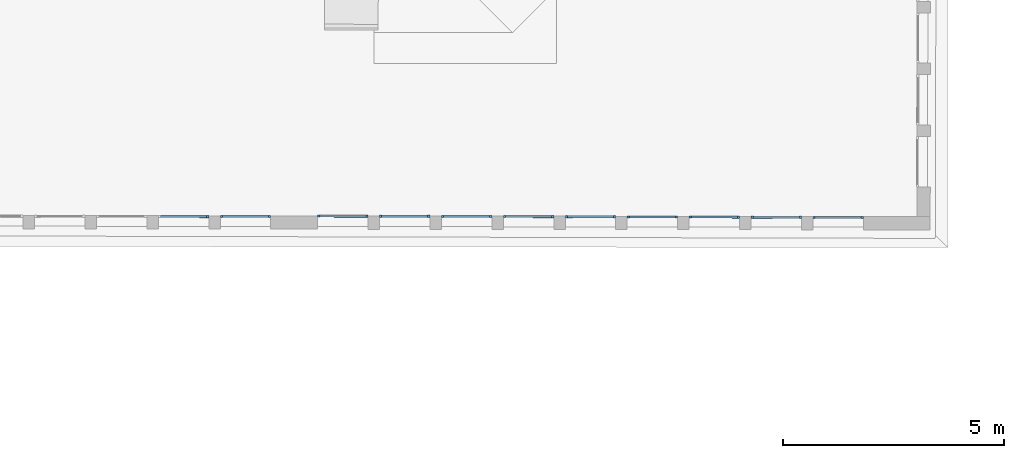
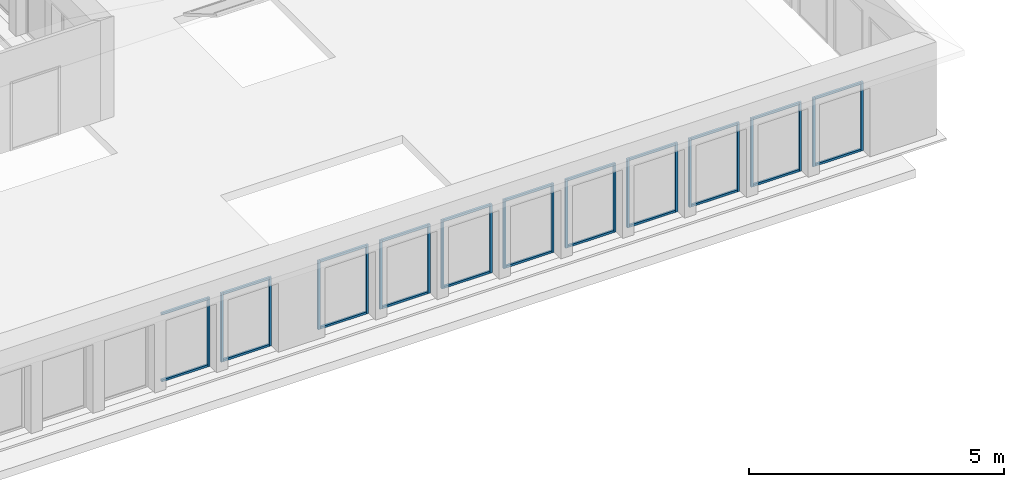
# One storey, part 9 of 26: 43 members, 11 elements without a shape of their own.
"""IFC2X3 building model written with IfcOpenShell, lengths in metres."""

from ifc_helpers import new_model, entity, si_unit, converted_unit, derived_unit, direction, frame, origin, origin_2d_with_axis, place, context, subcontext, project, spatial, rectangle, extrude, source, transform, mapped, material, type_object, type_shapes, element, aggregate, save


model = new_model("IFC2X3")

# Units and contexts
model_context = context("Model", 3, precision=1e-05, world=origin(), true_north=direction((6.123233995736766e-17, 1.0)))
body_context = subcontext(model_context, "Body", "Model", "MODEL_VIEW")
ifc_project = project(units=[si_unit("LENGTHUNIT", "METRE"), si_unit("AREAUNIT", "SQUARE_METRE"), converted_unit("PLANEANGLEUNIT", "DEGREE", entity("IfcPlaneAngleMeasure", 0.017453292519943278), si_unit("PLANEANGLEUNIT", "RADIAN"), dimensions=[0, 0, 0, 0, 0, 0, 0]), derived_unit("THERMALTRANSMITTANCEUNIT", [(si_unit("MASSUNIT", "GRAM", prefix="KILO"), 1), (si_unit("THERMODYNAMICTEMPERATUREUNIT", "KELVIN"), -1), (si_unit("TIMEUNIT", "SECOND"), -3)])], contexts=[model_context])

# Site, building, storey
site_placement = place(None, frame((1253.6752467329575, 2072.143113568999, 91.49999999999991), z_axis=(0.0, 0.0, 1.0), x_axis=(0.7237211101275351, 0.6900925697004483, 0.0)))
site = spatial("IfcSite", under=ifc_project, at=site_placement, Name="Surface", CompositionType="ELEMENT")
building_placement = place(site_placement, origin())
building = spatial("IfcBuilding", under=site, at=building_placement, CompositionType="ELEMENT")
storey_placement = place(building_placement, frame((0.0, 0.0, 7.0)))
storey = spatial("IfcBuildingStorey", under=building, at=storey_placement, Name="2-R+2", CompositionType="ELEMENT", Elevation=6.999999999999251)

# Curtain wall, member
curtain_wall_type = type_object("IfcCurtainWallType", Name="Mur-rideau:Menuiserie Ext 1F+1OB VERTIC", PredefinedType="NOTDEFINED")
curtain_wall_1_placement = place(storey_placement, frame((0.0, 0.0, -7.0)))
curtain_wall_1 = element("IfcCurtainWall", 1, at=curtain_wall_1_placement, inside=storey, type_object=curtain_wall_type, Name="Mur-rideau:Menuiserie Ext 1F+1OB VERTIC", ObjectType="Mur-rideau:Menuiserie Ext 1F+1OB VERTIC")
ifc_material = material(Name="OMD_Aluminium Men Ext")
member_type_1 = type_object("IfcMemberType", Name="Meneau rectangulaire:50x50", PredefinedType="MULLION", material=ifc_material)
shared_shape_1 = source(origin(), body_context, "Body", "SweptSolid", [
    extrude(rectangle(XDim=0.05, YDim=0.049999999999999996, at=origin_2d_with_axis()), frame((-0.025, 0.0, -1.039999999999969), z_axis=(0.0, 0.0, 1.0), x_axis=(-1.0, 0.0, 0.0)), (0.0, 0.0, 1.0), 1.0399999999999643),
])
type_shapes(member_type_1, [shared_shape_1])
member_1_placement = place(curtain_wall_1_placement, frame((177.6150356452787, -27.660226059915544, 9.55), z_axis=(-0.7228702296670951, 0.6909838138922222, 0.0), x_axis=(0.0, 0.0, 1.0)))
member_1 = element("IfcMember", 2, at=member_1_placement, type_object=member_type_1, material=ifc_material, Name="Meneau rectangulaire:50x50", ObjectType="Meneau rectangulaire:50x50", context=body_context, shape_type="MappedRepresentation", body=[
    mapped(shared_shape_1, transform((0.0, 0.0, 0.0), scale=1.0)),
])

curtain_wall_2_placement = place(storey_placement, frame((0.0, 0.0, -7.0)))
curtain_wall_2 = element("IfcCurtainWall", 3, at=curtain_wall_2_placement, inside=storey, type_object=curtain_wall_type, Name="Mur-rideau:Menuiserie Ext 1F+1OB VERTIC", ObjectType="Mur-rideau:Menuiserie Ext 1F+1OB VERTIC")
member_2_placement = place(curtain_wall_2_placement, frame((176.60434606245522, -26.691460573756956, 9.55), z_axis=(-0.7228702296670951, 0.6909838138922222, 0.0), x_axis=(0.0, 0.0, 1.0)))
member_2 = element("IfcMember", 4, at=member_2_placement, type_object=member_type_1, material=ifc_material, Name="Meneau rectangulaire:50x50", ObjectType="Meneau rectangulaire:50x50", context=body_context, shape_type="MappedRepresentation", body=[
    mapped(shared_shape_1, transform((0.0, 0.0, 0.0), scale=1.0)),
])

curtain_wall_3_placement = place(storey_placement, frame((0.0, 0.0, -7.0)))
curtain_wall_3 = element("IfcCurtainWall", 5, at=curtain_wall_3_placement, inside=storey, type_object=curtain_wall_type, Name="Mur-rideau:Menuiserie Ext 1F+1OB VERTIC", ObjectType="Mur-rideau:Menuiserie Ext 1F+1OB VERTIC")
member_3_placement = place(curtain_wall_3_placement, frame((175.59365647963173, -25.722695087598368, 9.55), z_axis=(-0.7228702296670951, 0.6909838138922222, 0.0), x_axis=(0.0, 0.0, 1.0)))
member_3 = element("IfcMember", 6, at=member_3_placement, type_object=member_type_1, material=ifc_material, Name="Meneau rectangulaire:50x50", ObjectType="Meneau rectangulaire:50x50", context=body_context, shape_type="MappedRepresentation", body=[
    mapped(shared_shape_1, transform((0.0, 0.0, 0.0), scale=1.0)),
])

curtain_wall_4_placement = place(storey_placement, frame((0.0, 0.0, -7.0)))
curtain_wall_4 = element("IfcCurtainWall", 7, at=curtain_wall_4_placement, inside=storey, type_object=curtain_wall_type, Name="Mur-rideau:Menuiserie Ext 1F+1OB VERTIC", ObjectType="Mur-rideau:Menuiserie Ext 1F+1OB VERTIC")
member_4_placement = place(curtain_wall_4_placement, frame((174.58296689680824, -24.75392960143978, 9.55), z_axis=(-0.7228702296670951, 0.6909838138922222, 0.0), x_axis=(0.0, 0.0, 1.0)))
member_4 = element("IfcMember", 8, at=member_4_placement, type_object=member_type_1, material=ifc_material, Name="Meneau rectangulaire:50x50", ObjectType="Meneau rectangulaire:50x50", context=body_context, shape_type="MappedRepresentation", body=[
    mapped(shared_shape_1, transform((0.0, 0.0, 0.0), scale=1.0)),
])

curtain_wall_5_placement = place(storey_placement, frame((0.0, 0.0, -7.0)))
curtain_wall_5 = element("IfcCurtainWall", 9, at=curtain_wall_5_placement, inside=storey, type_object=curtain_wall_type, Name="Mur-rideau:Menuiserie Ext 1F+1OB VERTIC", ObjectType="Mur-rideau:Menuiserie Ext 1F+1OB VERTIC")
member_5_placement = place(curtain_wall_5_placement, frame((173.57227731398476, -23.785164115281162, 9.55), z_axis=(-0.7228702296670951, 0.6909838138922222, 0.0), x_axis=(0.0, 0.0, 1.0)))
member_5 = element("IfcMember", 10, at=member_5_placement, type_object=member_type_1, material=ifc_material, Name="Meneau rectangulaire:50x50", ObjectType="Meneau rectangulaire:50x50", context=body_context, shape_type="MappedRepresentation", body=[
    mapped(shared_shape_1, transform((0.0, 0.0, 0.0), scale=1.0)),
])

curtain_wall_6_placement = place(storey_placement, frame((0.0, 0.0, -7.0)))
curtain_wall_6 = element("IfcCurtainWall", 11, at=curtain_wall_6_placement, inside=storey, type_object=curtain_wall_type, Name="Mur-rideau:Menuiserie Ext 1F+1OB VERTIC", ObjectType="Mur-rideau:Menuiserie Ext 1F+1OB VERTIC")
member_6_placement = place(curtain_wall_6_placement, frame((172.56158773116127, -22.816398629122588, 9.55), z_axis=(-0.7228702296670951, 0.6909838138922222, 0.0), x_axis=(0.0, 0.0, 1.0)))
member_6 = element("IfcMember", 12, at=member_6_placement, type_object=member_type_1, material=ifc_material, Name="Meneau rectangulaire:50x50", ObjectType="Meneau rectangulaire:50x50", context=body_context, shape_type="MappedRepresentation", body=[
    mapped(shared_shape_1, transform((0.0, 0.0, 0.0), scale=1.0)),
])

curtain_wall_7_placement = place(storey_placement, frame((0.0, 0.0, -7.0)))
curtain_wall_7 = element("IfcCurtainWall", 13, at=curtain_wall_7_placement, inside=storey, type_object=curtain_wall_type, Name="Mur-rideau:Menuiserie Ext 1F+1OB VERTIC", ObjectType="Mur-rideau:Menuiserie Ext 1F+1OB VERTIC")
member_7_placement = place(curtain_wall_7_placement, frame((171.55089814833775, -21.84763314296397, 9.55), z_axis=(-0.7228702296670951, 0.6909838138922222, 0.0), x_axis=(0.0, 0.0, 1.0)))
member_7 = element("IfcMember", 14, at=member_7_placement, type_object=member_type_1, material=ifc_material, Name="Meneau rectangulaire:50x50", ObjectType="Meneau rectangulaire:50x50", context=body_context, shape_type="MappedRepresentation", body=[
    mapped(shared_shape_1, transform((0.0, 0.0, 0.0), scale=1.0)),
])

curtain_wall_8_placement = place(storey_placement, frame((0.0, 0.0, -7.0)))
curtain_wall_8 = element("IfcCurtainWall", 15, at=curtain_wall_8_placement, inside=storey, type_object=curtain_wall_type, Name="Mur-rideau:Menuiserie Ext 1F+1OB VERTIC", ObjectType="Mur-rideau:Menuiserie Ext 1F+1OB VERTIC")
member_8_placement = place(curtain_wall_8_placement, frame((170.54005497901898, -20.87872044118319, 9.55), z_axis=(-0.7228702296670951, 0.6909838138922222, 0.0), x_axis=(0.0, 0.0, 1.0)))
member_8 = element("IfcMember", 16, at=member_8_placement, type_object=member_type_1, material=ifc_material, Name="Meneau rectangulaire:50x50", ObjectType="Meneau rectangulaire:50x50", context=body_context, shape_type="MappedRepresentation", body=[
    mapped(shared_shape_1, transform((0.0, 0.0, 0.0), scale=1.0)),
])

curtain_wall_9_placement = place(storey_placement, frame((0.0, 0.0, -7.0)))
curtain_wall_9 = element("IfcCurtainWall", 17, at=curtain_wall_9_placement, inside=storey, type_object=curtain_wall_type, Name="Mur-rideau:Menuiserie Ext 1F+1OB VERTIC", ObjectType="Mur-rideau:Menuiserie Ext 1F+1OB VERTIC")
member_9_placement = place(curtain_wall_9_placement, frame((169.5293653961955, -19.909954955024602, 9.55), z_axis=(-0.7228702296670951, 0.6909838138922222, 0.0), x_axis=(0.0, 0.0, 1.0)))
member_9 = element("IfcMember", 18, at=member_9_placement, type_object=member_type_1, material=ifc_material, Name="Meneau rectangulaire:50x50", ObjectType="Meneau rectangulaire:50x50", context=body_context, shape_type="MappedRepresentation", body=[
    mapped(shared_shape_1, transform((0.0, 0.0, 0.0), scale=1.0)),
])

curtain_wall_10_placement = place(storey_placement, frame((0.0, 0.0, -7.0)))
curtain_wall_10 = element("IfcCurtainWall", 19, at=curtain_wall_10_placement, inside=storey, type_object=curtain_wall_type, Name="Mur-rideau:Menuiserie Ext 1F+1OB VERTIC", ObjectType="Mur-rideau:Menuiserie Ext 1F+1OB VERTIC")
member_10_placement = place(curtain_wall_10_placement, frame((167.9307592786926, -18.39843800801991, 9.55), z_axis=(-0.7228702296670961, 0.6909838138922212, 0.0), x_axis=(0.0, 0.0, 1.0)))
member_10 = element("IfcMember", 20, at=member_10_placement, type_object=member_type_1, material=ifc_material, Name="Meneau rectangulaire:50x50", ObjectType="Meneau rectangulaire:50x50", context=body_context, shape_type="MappedRepresentation", body=[
    mapped(shared_shape_1, transform((0.0, 0.0, 0.0), scale=1.0)),
])

curtain_wall_11_placement = place(storey_placement, frame((0.0, 0.0, -7.0)))
curtain_wall_11 = element("IfcCurtainWall", 21, at=curtain_wall_11_placement, inside=storey, type_object=curtain_wall_type, Name="Mur-rideau:Menuiserie Ext 1F+1OB VERTIC", ObjectType="Mur-rideau:Menuiserie Ext 1F+1OB VERTIC")
member_11_placement = place(curtain_wall_11_placement, frame((166.91660981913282, -17.433282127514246, 9.55), z_axis=(-0.7228702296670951, 0.6909838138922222, 0.0), x_axis=(0.0, 0.0, 1.0)))
member_11 = element("IfcMember", 22, at=member_11_placement, type_object=member_type_1, material=ifc_material, Name="Meneau rectangulaire:50x50", ObjectType="Meneau rectangulaire:50x50", context=body_context, shape_type="MappedRepresentation", body=[
    mapped(shared_shape_1, transform((0.0, 0.0, 0.0), scale=1.0)),
])

# Member
member_type_2 = type_object("IfcMemberType", Name="Meneau rectangulaire:50x50", PredefinedType="MULLION", material=ifc_material)
shared_shape_2 = source(origin(), body_context, "Body", "SweptSolid", [
    extrude(rectangle(XDim=0.05, YDim=0.05, at=origin_2d_with_axis()), frame((-0.025, 0.0, -1.0399999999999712), z_axis=(0.0, 0.0, 1.0), x_axis=(-1.0, 0.0, 0.0)), (0.0, 0.0, 1.0), 1.0399999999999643),
])
type_shapes(member_type_2, [shared_shape_2])
member_12_placement = place(curtain_wall_1_placement, frame((178.36682068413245, -28.378849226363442, 7.900000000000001), z_axis=(0.7228702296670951, -0.6909838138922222, 0.0), x_axis=(0.0, 0.0, -1.0)))
member_12 = element("IfcMember", 23, at=member_12_placement, type_object=member_type_2, material=ifc_material, Name="Meneau rectangulaire:50x50", ObjectType="Meneau rectangulaire:50x50", context=body_context, shape_type="MappedRepresentation", body=[
    mapped(shared_shape_2, transform((0.0, 0.0, 0.0), scale=1.0)),
])

member_13_placement = place(curtain_wall_2_placement, frame((177.35613110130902, -27.410083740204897, 7.900000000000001), z_axis=(0.7228702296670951, -0.6909838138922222, 0.0), x_axis=(0.0, 0.0, -1.0)))
member_13 = element("IfcMember", 24, at=member_13_placement, type_object=member_type_2, material=ifc_material, Name="Meneau rectangulaire:50x50", ObjectType="Meneau rectangulaire:50x50", context=body_context, shape_type="MappedRepresentation", body=[
    mapped(shared_shape_2, transform((0.0, 0.0, 0.0), scale=1.0)),
])

member_14_placement = place(curtain_wall_3_placement, frame((176.34544151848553, -26.441318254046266, 7.900000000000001), z_axis=(0.7228702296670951, -0.6909838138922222, 0.0), x_axis=(0.0, 0.0, -1.0)))
member_14 = element("IfcMember", 25, at=member_14_placement, type_object=member_type_2, material=ifc_material, Name="Meneau rectangulaire:50x50", ObjectType="Meneau rectangulaire:50x50", context=body_context, shape_type="MappedRepresentation", body=[
    mapped(shared_shape_2, transform((0.0, 0.0, 0.0), scale=1.0)),
])

member_15_placement = place(curtain_wall_4_placement, frame((175.33475193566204, -25.47255276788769, 7.900000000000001), z_axis=(0.7228702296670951, -0.6909838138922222, 0.0), x_axis=(0.0, 0.0, -1.0)))
member_15 = element("IfcMember", 26, at=member_15_placement, type_object=member_type_2, material=ifc_material, Name="Meneau rectangulaire:50x50", ObjectType="Meneau rectangulaire:50x50", context=body_context, shape_type="MappedRepresentation", body=[
    mapped(shared_shape_2, transform((0.0, 0.0, 0.0), scale=1.0)),
])

member_16_placement = place(curtain_wall_5_placement, frame((174.32406235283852, -24.503787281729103, 7.900000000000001), z_axis=(0.7228702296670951, -0.6909838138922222, 0.0), x_axis=(0.0, 0.0, -1.0)))
member_16 = element("IfcMember", 27, at=member_16_placement, type_object=member_type_2, material=ifc_material, Name="Meneau rectangulaire:50x50", ObjectType="Meneau rectangulaire:50x50", context=body_context, shape_type="MappedRepresentation", body=[
    mapped(shared_shape_2, transform((0.0, 0.0, 0.0), scale=1.0)),
])

member_17_placement = place(curtain_wall_6_placement, frame((173.31337277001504, -23.5350217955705, 7.900000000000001), z_axis=(0.7228702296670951, -0.6909838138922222, 0.0), x_axis=(0.0, 0.0, -1.0)))
member_17 = element("IfcMember", 28, at=member_17_placement, type_object=member_type_2, material=ifc_material, Name="Meneau rectangulaire:50x50", ObjectType="Meneau rectangulaire:50x50", context=body_context, shape_type="MappedRepresentation", body=[
    mapped(shared_shape_2, transform((0.0, 0.0, 0.0), scale=1.0)),
])

member_18_placement = place(curtain_wall_7_placement, frame((172.30268318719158, -22.566256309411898, 7.900000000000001), z_axis=(0.7228702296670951, -0.6909838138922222, 0.0), x_axis=(0.0, 0.0, -1.0)))
member_18 = element("IfcMember", 29, at=member_18_placement, type_object=member_type_2, material=ifc_material, Name="Meneau rectangulaire:50x50", ObjectType="Meneau rectangulaire:50x50", context=body_context, shape_type="MappedRepresentation", body=[
    mapped(shared_shape_2, transform((0.0, 0.0, 0.0), scale=1.0)),
])

member_19_placement = place(curtain_wall_8_placement, frame((171.29184001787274, -21.59734360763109, 7.900000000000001), z_axis=(0.7228702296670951, -0.6909838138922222, 0.0), x_axis=(0.0, 0.0, -1.0)))
member_19 = element("IfcMember", 30, at=member_19_placement, type_object=member_type_2, material=ifc_material, Name="Meneau rectangulaire:50x50", ObjectType="Meneau rectangulaire:50x50", context=body_context, shape_type="MappedRepresentation", body=[
    mapped(shared_shape_2, transform((0.0, 0.0, 0.0), scale=1.0)),
])

member_20_placement = place(curtain_wall_9_placement, frame((170.28115043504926, -20.628578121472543, 7.900000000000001), z_axis=(0.7228702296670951, -0.6909838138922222, 0.0), x_axis=(0.0, 0.0, -1.0)))
member_20 = element("IfcMember", 31, at=member_20_placement, type_object=member_type_2, material=ifc_material, Name="Meneau rectangulaire:50x50", ObjectType="Meneau rectangulaire:50x50", context=body_context, shape_type="MappedRepresentation", body=[
    mapped(shared_shape_2, transform((0.0, 0.0, 0.0), scale=1.0)),
])

member_21_placement = place(curtain_wall_10_placement, frame((168.68254431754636, -19.117061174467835, 7.900000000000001), z_axis=(0.7228702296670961, -0.6909838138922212, 0.0), x_axis=(0.0, 0.0, -1.0)))
member_21 = element("IfcMember", 32, at=member_21_placement, type_object=member_type_2, material=ifc_material, Name="Meneau rectangulaire:50x50", ObjectType="Meneau rectangulaire:50x50", context=body_context, shape_type="MappedRepresentation", body=[
    mapped(shared_shape_2, transform((0.0, 0.0, 0.0), scale=1.0)),
])

member_22_placement = place(curtain_wall_11_placement, frame((167.66839485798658, -18.151905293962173, 7.900000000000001), z_axis=(0.7228702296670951, -0.6909838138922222, 0.0), x_axis=(0.0, 0.0, -1.0)))
member_22 = element("IfcMember", 33, at=member_22_placement, type_object=member_type_2, material=ifc_material, Name="Meneau rectangulaire:50x50", ObjectType="Meneau rectangulaire:50x50", context=body_context, shape_type="MappedRepresentation", body=[
    mapped(shared_shape_2, transform((0.0, 0.0, 0.0), scale=1.0)),
])

member_type_3 = type_object("IfcMemberType", Name="Meneau rectangulaire:50x50", PredefinedType="MULLION", material=ifc_material)
shared_shape_3 = source(origin(), body_context, "Body", "SweptSolid", [
    extrude(rectangle(XDim=0.05, YDim=0.05, at=origin_2d_with_axis()), frame((-0.025, 0.0, -1.6499999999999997), z_axis=(0.0, 0.0, 1.0), x_axis=(-1.0, 0.0, 0.0)), (0.0, 0.0, 1.0), 1.6499999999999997),
])
type_shapes(member_type_3, [shared_shape_3])
member_23_placement = place(curtain_wall_1_placement, frame((177.57889213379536, -27.625676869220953, 7.900000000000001), z_axis=(0.0, 0.0, -1.0), x_axis=(-0.7228702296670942, 0.6909838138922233, 0.0)))
member_23 = element("IfcMember", 34, at=member_23_placement, type_object=member_type_3, material=ifc_material, Name="Meneau rectangulaire:50x50", ObjectType="Meneau rectangulaire:50x50", context=body_context, shape_type="MappedRepresentation", body=[
    mapped(shared_shape_3, transform((0.0, 0.0, 0.0), scale=1.0)),
])

member_24_placement = place(curtain_wall_2_placement, frame((176.5682025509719, -26.656911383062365, 7.900000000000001), z_axis=(0.0, 0.0, -1.0), x_axis=(-0.7228702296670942, 0.6909838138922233, 0.0)))
member_24 = element("IfcMember", 35, at=member_24_placement, type_object=member_type_3, material=ifc_material, Name="Meneau rectangulaire:50x50", ObjectType="Meneau rectangulaire:50x50", context=body_context, shape_type="MappedRepresentation", body=[
    mapped(shared_shape_3, transform((0.0, 0.0, 0.0), scale=1.0)),
])

member_25_placement = place(curtain_wall_3_placement, frame((175.55751296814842, -25.688145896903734, 7.900000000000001), z_axis=(0.0, 0.0, -1.0), x_axis=(-0.7228702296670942, 0.6909838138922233, 0.0)))
member_25 = element("IfcMember", 36, at=member_25_placement, type_object=member_type_3, material=ifc_material, Name="Meneau rectangulaire:50x50", ObjectType="Meneau rectangulaire:50x50", context=body_context, shape_type="MappedRepresentation", body=[
    mapped(shared_shape_3, transform((0.0, 0.0, 0.0), scale=1.0)),
])

member_26_placement = place(curtain_wall_4_placement, frame((174.5468233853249, -24.71938041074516, 7.900000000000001), z_axis=(0.0, 0.0, -1.0), x_axis=(-0.7228702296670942, 0.6909838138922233, 0.0)))
member_26 = element("IfcMember", 37, at=member_26_placement, type_object=member_type_3, material=ifc_material, Name="Meneau rectangulaire:50x50", ObjectType="Meneau rectangulaire:50x50", context=body_context, shape_type="MappedRepresentation", body=[
    mapped(shared_shape_3, transform((0.0, 0.0, 0.0), scale=1.0)),
])

member_27_placement = place(curtain_wall_5_placement, frame((173.53613380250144, -23.75061492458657, 7.900000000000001), z_axis=(0.0, 0.0, -1.0), x_axis=(-0.7228702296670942, 0.6909838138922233, 0.0)))
member_27 = element("IfcMember", 38, at=member_27_placement, type_object=member_type_3, material=ifc_material, Name="Meneau rectangulaire:50x50", ObjectType="Meneau rectangulaire:50x50", context=body_context, shape_type="MappedRepresentation", body=[
    mapped(shared_shape_3, transform((0.0, 0.0, 0.0), scale=1.0)),
])

member_28_placement = place(curtain_wall_6_placement, frame((172.52544421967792, -22.78184943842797, 7.900000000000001), z_axis=(0.0, 0.0, -1.0), x_axis=(-0.7228702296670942, 0.6909838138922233, 0.0)))
member_28 = element("IfcMember", 39, at=member_28_placement, type_object=member_type_3, material=ifc_material, Name="Meneau rectangulaire:50x50", ObjectType="Meneau rectangulaire:50x50", context=body_context, shape_type="MappedRepresentation", body=[
    mapped(shared_shape_3, transform((0.0, 0.0, 0.0), scale=1.0)),
])

member_29_placement = place(curtain_wall_7_placement, frame((171.51475463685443, -21.81308395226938, 7.900000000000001), z_axis=(0.0, 0.0, -1.0), x_axis=(-0.7228702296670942, 0.6909838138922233, 0.0)))
member_29 = element("IfcMember", 40, at=member_29_placement, type_object=member_type_3, material=ifc_material, Name="Meneau rectangulaire:50x50", ObjectType="Meneau rectangulaire:50x50", context=body_context, shape_type="MappedRepresentation", body=[
    mapped(shared_shape_3, transform((0.0, 0.0, 0.0), scale=1.0)),
])

member_30_placement = place(curtain_wall_8_placement, frame((170.50391146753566, -20.844171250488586, 7.900000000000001), z_axis=(0.0, 0.0, -1.0), x_axis=(-0.7228702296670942, 0.6909838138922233, 0.0)))
member_30 = element("IfcMember", 41, at=member_30_placement, type_object=member_type_3, material=ifc_material, Name="Meneau rectangulaire:50x50", ObjectType="Meneau rectangulaire:50x50", context=body_context, shape_type="MappedRepresentation", body=[
    mapped(shared_shape_3, transform((0.0, 0.0, 0.0), scale=1.0)),
])

member_31_placement = place(curtain_wall_9_placement, frame((169.49322188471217, -19.87540576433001, 7.900000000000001), z_axis=(0.0, 0.0, -1.0), x_axis=(-0.7228702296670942, 0.6909838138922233, 0.0)))
member_31 = element("IfcMember", 42, at=member_31_placement, type_object=member_type_3, material=ifc_material, Name="Meneau rectangulaire:50x50", ObjectType="Meneau rectangulaire:50x50", context=body_context, shape_type="MappedRepresentation", body=[
    mapped(shared_shape_3, transform((0.0, 0.0, 0.0), scale=1.0)),
])

member_32_placement = place(curtain_wall_10_placement, frame((167.89461576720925, -18.363888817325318, 7.900000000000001), z_axis=(0.0, 0.0, -1.0), x_axis=(-0.7228702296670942, 0.6909838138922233, 0.0)))
member_32 = element("IfcMember", 43, at=member_32_placement, type_object=member_type_3, material=ifc_material, Name="Meneau rectangulaire:50x50", ObjectType="Meneau rectangulaire:50x50", context=body_context, shape_type="MappedRepresentation", body=[
    mapped(shared_shape_3, transform((0.0, 0.0, 0.0), scale=1.0)),
])

member_type_4 = type_object("IfcMemberType", Name="Meneau rectangulaire:50x50", PredefinedType="MULLION", material=ifc_material)
shared_shape_4 = source(origin(), body_context, "Body", "SweptSolid", [
    extrude(rectangle(XDim=0.05, YDim=0.05000000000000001, at=origin_2d_with_axis()), frame((-0.025, 0.0, -1.6499999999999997), z_axis=(0.0, 0.0, 1.0), x_axis=(-1.0, 0.0, 0.0)), (0.0, 0.0, 1.0), 1.6499999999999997),
])
type_shapes(member_type_4, [shared_shape_4])
member_33_placement = place(curtain_wall_1_placement, frame((178.40296419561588, -28.413398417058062, 9.55), z_axis=(0.0, 0.0, 1.0), x_axis=(0.7228702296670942, -0.6909838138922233, 0.0)))
member_33 = element("IfcMember", 44, at=member_33_placement, type_object=member_type_4, material=ifc_material, Name="Meneau rectangulaire:50x50", ObjectType="Meneau rectangulaire:50x50", context=body_context, shape_type="MappedRepresentation", body=[
    mapped(shared_shape_4, transform((0.0, 0.0, 0.0), scale=1.0)),
])

aggregate(curtain_wall_1, [member_1, member_12, member_23, member_33])

member_34_placement = place(curtain_wall_2_placement, frame((177.3922746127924, -27.444632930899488, 9.55), z_axis=(0.0, 0.0, 1.0), x_axis=(0.7228702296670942, -0.6909838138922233, 0.0)))
member_34 = element("IfcMember", 45, at=member_34_placement, type_object=member_type_4, material=ifc_material, Name="Meneau rectangulaire:50x50", ObjectType="Meneau rectangulaire:50x50", context=body_context, shape_type="MappedRepresentation", body=[
    mapped(shared_shape_4, transform((0.0, 0.0, 0.0), scale=1.0)),
])

aggregate(curtain_wall_2, [member_2, member_13, member_24, member_34])

member_35_placement = place(curtain_wall_3_placement, frame((176.3815850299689, -26.4758674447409, 9.55), z_axis=(0.0, 0.0, 1.0), x_axis=(0.7228702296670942, -0.6909838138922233, 0.0)))
member_35 = element("IfcMember", 46, at=member_35_placement, type_object=member_type_4, material=ifc_material, Name="Meneau rectangulaire:50x50", ObjectType="Meneau rectangulaire:50x50", context=body_context, shape_type="MappedRepresentation", body=[
    mapped(shared_shape_4, transform((0.0, 0.0, 0.0), scale=1.0)),
])

aggregate(curtain_wall_3, [member_3, member_14, member_25, member_35])

member_36_placement = place(curtain_wall_4_placement, frame((175.37089544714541, -25.50710195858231, 9.55), z_axis=(0.0, 0.0, 1.0), x_axis=(0.7228702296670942, -0.6909838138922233, 0.0)))
member_36 = element("IfcMember", 47, at=member_36_placement, type_object=member_type_4, material=ifc_material, Name="Meneau rectangulaire:50x50", ObjectType="Meneau rectangulaire:50x50", context=body_context, shape_type="MappedRepresentation", body=[
    mapped(shared_shape_4, transform((0.0, 0.0, 0.0), scale=1.0)),
])

aggregate(curtain_wall_4, [member_4, member_15, member_26, member_36])

member_37_placement = place(curtain_wall_5_placement, frame((174.36020586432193, -24.53833647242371, 9.55), z_axis=(0.0, 0.0, 1.0), x_axis=(0.7228702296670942, -0.6909838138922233, 0.0)))
member_37 = element("IfcMember", 48, at=member_37_placement, type_object=member_type_4, material=ifc_material, Name="Meneau rectangulaire:50x50", ObjectType="Meneau rectangulaire:50x50", context=body_context, shape_type="MappedRepresentation", body=[
    mapped(shared_shape_4, transform((0.0, 0.0, 0.0), scale=1.0)),
])

aggregate(curtain_wall_5, [member_5, member_16, member_27, member_37])

member_38_placement = place(curtain_wall_6_placement, frame((173.34951628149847, -23.569570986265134, 9.55), z_axis=(0.0, 0.0, 1.0), x_axis=(0.7228702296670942, -0.6909838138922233, 0.0)))
member_38 = element("IfcMember", 49, at=member_38_placement, type_object=member_type_4, material=ifc_material, Name="Meneau rectangulaire:50x50", ObjectType="Meneau rectangulaire:50x50", context=body_context, shape_type="MappedRepresentation", body=[
    mapped(shared_shape_4, transform((0.0, 0.0, 0.0), scale=1.0)),
])

aggregate(curtain_wall_6, [member_6, member_17, member_28, member_38])

member_39_placement = place(curtain_wall_7_placement, frame((172.33882669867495, -22.600805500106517, 9.55), z_axis=(0.0, 0.0, 1.0), x_axis=(0.7228702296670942, -0.6909838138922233, 0.0)))
member_39 = element("IfcMember", 50, at=member_39_placement, type_object=member_type_4, material=ifc_material, Name="Meneau rectangulaire:50x50", ObjectType="Meneau rectangulaire:50x50", context=body_context, shape_type="MappedRepresentation", body=[
    mapped(shared_shape_4, transform((0.0, 0.0, 0.0), scale=1.0)),
])

aggregate(curtain_wall_7, [member_7, member_18, member_29, member_39])

member_40_placement = place(curtain_wall_8_placement, frame((171.32798352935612, -21.63189279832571, 9.55), z_axis=(0.0, 0.0, 1.0), x_axis=(0.7228702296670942, -0.6909838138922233, 0.0)))
member_40 = element("IfcMember", 51, at=member_40_placement, type_object=member_type_4, material=ifc_material, Name="Meneau rectangulaire:50x50", ObjectType="Meneau rectangulaire:50x50", context=body_context, shape_type="MappedRepresentation", body=[
    mapped(shared_shape_4, transform((0.0, 0.0, 0.0), scale=1.0)),
])

aggregate(curtain_wall_8, [member_8, member_19, member_30, member_40])

member_41_placement = place(curtain_wall_9_placement, frame((170.31729394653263, -20.663127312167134, 9.55), z_axis=(0.0, 0.0, 1.0), x_axis=(0.7228702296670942, -0.6909838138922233, 0.0)))
member_41 = element("IfcMember", 52, at=member_41_placement, type_object=member_type_4, material=ifc_material, Name="Meneau rectangulaire:50x50", ObjectType="Meneau rectangulaire:50x50", context=body_context, shape_type="MappedRepresentation", body=[
    mapped(shared_shape_4, transform((0.0, 0.0, 0.0), scale=1.0)),
])

aggregate(curtain_wall_9, [member_9, member_20, member_31, member_41])

member_42_placement = place(curtain_wall_10_placement, frame((168.71868782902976, -19.15161036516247, 9.55), z_axis=(0.0, 0.0, 1.0), x_axis=(0.7228702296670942, -0.6909838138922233, 0.0)))
member_42 = element("IfcMember", 53, at=member_42_placement, type_object=member_type_4, material=ifc_material, Name="Meneau rectangulaire:50x50", ObjectType="Meneau rectangulaire:50x50", context=body_context, shape_type="MappedRepresentation", body=[
    mapped(shared_shape_4, transform((0.0, 0.0, 0.0), scale=1.0)),
])

aggregate(curtain_wall_10, [member_10, member_21, member_32, member_42])

member_43_placement = place(curtain_wall_11_placement, frame((167.70453836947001, -18.186454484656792, 9.55), z_axis=(0.0, 0.0, 1.0), x_axis=(0.7228702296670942, -0.6909838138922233, 0.0)))
member_43 = element("IfcMember", 54, at=member_43_placement, type_object=member_type_4, material=ifc_material, Name="Meneau rectangulaire:50x50", ObjectType="Meneau rectangulaire:50x50", context=body_context, shape_type="MappedRepresentation", body=[
    mapped(shared_shape_4, transform((0.0, 0.0, 0.0), scale=1.0)),
])

aggregate(curtain_wall_11, [member_11, member_22, member_43])

save(model, "model.ifc")
